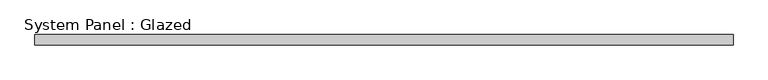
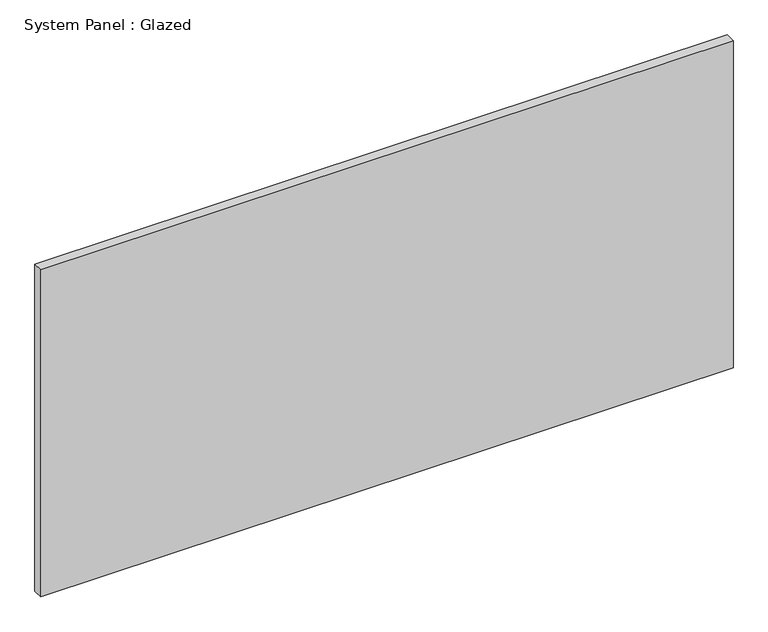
"""IFC4 building model written with IfcOpenShell, lengths in millimetres: plate geometry, System Panel : Glazed."""

from ifc_helpers import new_model, si_unit, origin, origin_with_axes, place, context, project, spatial, polyline, outline, extrude, source, transform, mapped, element, save


def system_panel_glazed_53a11c7e(model_context):
    return source(origin(), model_context, "Body", "SweptSolid", [
        extrude(outline(polyline([(874.7173453, 19.05), (-874.7173453, 19.05), (-874.7173453, 44.45), (874.7173453, 44.45), (874.7173453, 19.05)])), origin_with_axes(), (0.0, 0.0, 1.0), 873.1346896),
    ])


if __name__ == "__main__":
    model = new_model("IFC4")
    model_context = context("Model", 3, world=origin())
    ifc_project = project(units=[si_unit("LENGTHUNIT", "METRE", prefix="MILLI")], contexts=[model_context])
    site = spatial("IfcSite", under=ifc_project)
    building = spatial("IfcBuilding", under=site)
    placement = place(None, origin())
    system_panel_glazed_shape = system_panel_glazed_53a11c7e(model_context)
    element("IfcPlate", 1, ObjectType="System Panel : Glazed", at=placement, inside=building, context=model_context, shape_type="MappedRepresentation", body=[
        mapped(system_panel_glazed_shape, transform((0.0, 0.0, 0.0), x_axis=(1.0, 0.0, 0.0), y_axis=(0.0, 1.0, 0.0), z_axis=(0.0, 0.0, 1.0))),
    ])
    save(model, "model.ifc")
